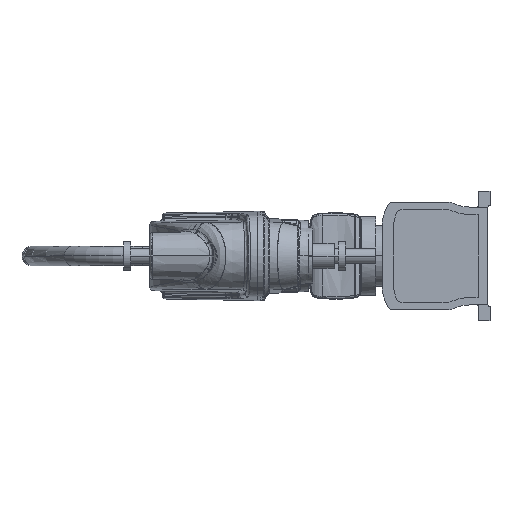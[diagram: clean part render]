
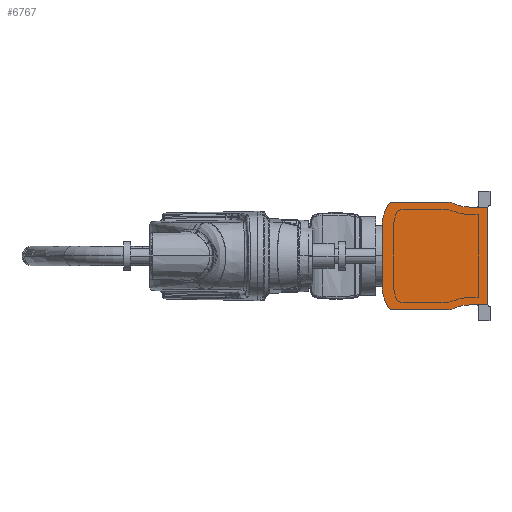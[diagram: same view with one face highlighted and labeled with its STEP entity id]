
A CAD part, left-side view. The second image highlights one B-rep face of the part: STEP entity #6767.
In plain terms, the highlighted planar face has unit normal (-1, 0, 0).
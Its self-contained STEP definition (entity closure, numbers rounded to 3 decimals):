
#617=DIRECTION('',(0.,-1.,0.));
#618=VECTOR('',#617,22.929);
#619=CARTESIAN_POINT('',(-72.,28.929,-68.));
#620=LINE('',#619,#618);
#693=CARTESIAN_POINT('',(-72.,6.,-65.));
#694=DIRECTION('',(1.,0.,0.));
#695=DIRECTION('',(0.,-1.,0.));
#696=AXIS2_PLACEMENT_3D('',#693,#694,#695);
#698=CARTESIAN_POINT('',(-72.,28.929,-118.));
#699=DIRECTION('',(-1.,0.,0.));
#700=DIRECTION('',(0.,0.,1.));
#701=AXIS2_PLACEMENT_3D('',#698,#699,#700);
#703=CARTESIAN_POINT('',(-72.,61.655,-45.));
#704=DIRECTION('',(1.,0.,0.));
#705=DIRECTION('',(0.,-0.409,-0.912));
#706=AXIS2_PLACEMENT_3D('',#703,#704,#705);
#708=CARTESIAN_POINT('',(-72.,133.943,-65.));
#709=DIRECTION('',(1.,0.,0.));
#710=DIRECTION('',(0.,0.,-1.));
#711=AXIS2_PLACEMENT_3D('',#708,#709,#710);
#713=CARTESIAN_POINT('',(-72.,70.602,-35.201));
#714=DIRECTION('',(1.,0.,0.));
#715=DIRECTION('',(0.,0.905,-0.426));
#716=AXIS2_PLACEMENT_3D('',#713,#714,#715);
#718=CARTESIAN_POINT('',(-72.,140.,-44.365));
#719=DIRECTION('',(1.,0.,0.));
#720=DIRECTION('',(0.,0.991,-0.131));
#721=AXIS2_PLACEMENT_3D('',#718,#719,#720);
#723=CARTESIAN_POINT('',(-72.,140.,44.365));
#724=DIRECTION('',(1.,0.,0.));
#725=DIRECTION('',(0.,1.,0.));
#726=AXIS2_PLACEMENT_3D('',#723,#724,#725);
#728=CARTESIAN_POINT('',(-72.,70.602,35.201));
#729=DIRECTION('',(1.,0.,0.));
#730=DIRECTION('',(0.,0.991,0.131));
#731=AXIS2_PLACEMENT_3D('',#728,#729,#730);
#733=CARTESIAN_POINT('',(-72.,133.943,65.));
#734=DIRECTION('',(1.,0.,0.));
#735=DIRECTION('',(0.,0.905,0.426));
#736=AXIS2_PLACEMENT_3D('',#733,#734,#735);
#738=CARTESIAN_POINT('',(-72.,61.655,45.));
#739=DIRECTION('',(1.,0.,0.));
#740=DIRECTION('',(0.,0.,1.));
#741=AXIS2_PLACEMENT_3D('',#738,#739,#740);
#743=CARTESIAN_POINT('',(-72.,28.929,118.));
#744=DIRECTION('',(-1.,0.,0.));
#745=DIRECTION('',(0.,0.409,-0.913));
#746=AXIS2_PLACEMENT_3D('',#743,#744,#745);
#748=CARTESIAN_POINT('',(-72.,6.,65.));
#749=DIRECTION('',(1.,0.,0.));
#750=DIRECTION('',(0.,0.,1.));
#751=AXIS2_PLACEMENT_3D('',#748,#749,#750);
#785=DIRECTION('',(0.,-1.,0.));
#786=VECTOR('',#785,72.287);
#787=CARTESIAN_POINT('',(-72.,133.943,-75.));
#788=LINE('',#787,#786);
#831=DIRECTION('',(0.,0.,-1.));
#832=VECTOR('',#831,88.729);
#833=CARTESIAN_POINT('',(-72.,150.,44.365));
#834=LINE('',#833,#832);
#973=DIRECTION('',(0.,1.,0.));
#974=VECTOR('',#973,72.287);
#975=CARTESIAN_POINT('',(-72.,61.655,75.));
#976=LINE('',#975,#974);
#1009=DIRECTION('',(0.,1.,0.));
#1010=VECTOR('',#1009,22.929);
#1011=CARTESIAN_POINT('',(-72.,6.,68.));
#1012=LINE('',#1011,#1010);
#1029=DIRECTION('',(0.,0.,1.));
#1030=VECTOR('',#1029,130.);
#1031=CARTESIAN_POINT('',(-72.,3.,-65.));
#1032=LINE('',#1031,#1030);
#4777=CARTESIAN_POINT('',(-72.,3.,-65.));
#4778=CARTESIAN_POINT('',(-72.,6.,-68.));
#4779=VERTEX_POINT('',#4777);
#4780=VERTEX_POINT('',#4778);
#4781=CARTESIAN_POINT('',(-72.,28.929,-68.));
#4782=VERTEX_POINT('',#4781);
#4783=CARTESIAN_POINT('',(-72.,49.383,-72.375));
#4784=VERTEX_POINT('',#4783);
#4785=CARTESIAN_POINT('',(-72.,61.655,-75.));
#4786=VERTEX_POINT('',#4785);
#4787=CARTESIAN_POINT('',(-72.,133.943,-75.));
#4788=VERTEX_POINT('',#4787);
#4789=CARTESIAN_POINT('',(-72.,142.991,-69.257));
#4790=VERTEX_POINT('',#4789);
#4791=CARTESIAN_POINT('',(-72.,149.914,-45.674));
#4792=VERTEX_POINT('',#4791);
#4793=CARTESIAN_POINT('',(-72.,150.,-44.365));
#4794=VERTEX_POINT('',#4793);
#4795=CARTESIAN_POINT('',(-72.,150.,44.365));
#4796=VERTEX_POINT('',#4795);
#4797=CARTESIAN_POINT('',(-72.,149.914,45.674));
#4798=VERTEX_POINT('',#4797);
#4799=CARTESIAN_POINT('',(-72.,142.991,69.257));
#4800=VERTEX_POINT('',#4799);
#4801=CARTESIAN_POINT('',(-72.,133.943,75.));
#4802=VERTEX_POINT('',#4801);
#4803=CARTESIAN_POINT('',(-72.,61.655,75.));
#4804=VERTEX_POINT('',#4803);
#4805=CARTESIAN_POINT('',(-72.,49.383,72.375));
#4806=VERTEX_POINT('',#4805);
#4807=CARTESIAN_POINT('',(-72.,28.929,68.));
#4808=VERTEX_POINT('',#4807);
#4809=CARTESIAN_POINT('',(-72.,6.,68.));
#4810=VERTEX_POINT('',#4809);
#4811=CARTESIAN_POINT('',(-72.,3.,65.));
#4812=VERTEX_POINT('',#4811);
#6726=CARTESIAN_POINT('',(-72.,76.5,0.));
#6727=DIRECTION('',(1.,0.,0.));
#6728=DIRECTION('',(0.,-1.,0.));
#6729=AXIS2_PLACEMENT_3D('',#6726,#6727,#6728);
#6730=PLANE('',#6729);
#6731=ORIENTED_EDGE('',*,*,#6712,.T.);
#6732=ORIENTED_EDGE('',*,*,#6604,.F.);
#6734=ORIENTED_EDGE('',*,*,#6733,.T.);
#6736=ORIENTED_EDGE('',*,*,#6735,.T.);
#6738=ORIENTED_EDGE('',*,*,#6737,.F.);
#6740=ORIENTED_EDGE('',*,*,#6739,.T.);
#6742=ORIENTED_EDGE('',*,*,#6741,.T.);
#6744=ORIENTED_EDGE('',*,*,#6743,.T.);
#6746=ORIENTED_EDGE('',*,*,#6745,.F.);
#6748=ORIENTED_EDGE('',*,*,#6747,.T.);
#6750=ORIENTED_EDGE('',*,*,#6749,.T.);
#6752=ORIENTED_EDGE('',*,*,#6751,.T.);
#6754=ORIENTED_EDGE('',*,*,#6753,.F.);
#6756=ORIENTED_EDGE('',*,*,#6755,.T.);
#6758=ORIENTED_EDGE('',*,*,#6757,.T.);
#6760=ORIENTED_EDGE('',*,*,#6759,.F.);
#6762=ORIENTED_EDGE('',*,*,#6761,.T.);
#6764=ORIENTED_EDGE('',*,*,#6763,.F.);
#6765=EDGE_LOOP('',(#6731,#6732,#6734,#6736,#6738,#6740,#6742,#6744,#6746,#6748,
#6750,#6752,#6754,#6756,#6758,#6760,#6762,#6764));
#6766=FACE_OUTER_BOUND('',#6765,.F.);
#697=CIRCLE('',#696,3.);
#702=CIRCLE('',#701,50.);
#707=CIRCLE('',#706,30.);
#712=CIRCLE('',#711,10.);
#717=CIRCLE('',#716,80.);
#722=CIRCLE('',#721,10.);
#727=CIRCLE('',#726,10.);
#732=CIRCLE('',#731,80.);
#737=CIRCLE('',#736,10.);
#742=CIRCLE('',#741,30.);
#747=CIRCLE('',#746,50.);
#752=CIRCLE('',#751,3.);
#6604=EDGE_CURVE('',#4782,#4780,#620,.T.);
#6712=EDGE_CURVE('',#4779,#4780,#697,.T.);
#6733=EDGE_CURVE('',#4782,#4784,#702,.T.);
#6735=EDGE_CURVE('',#4784,#4786,#707,.T.);
#6737=EDGE_CURVE('',#4788,#4786,#788,.T.);
#6739=EDGE_CURVE('',#4788,#4790,#712,.T.);
#6741=EDGE_CURVE('',#4790,#4792,#717,.T.);
#6743=EDGE_CURVE('',#4792,#4794,#722,.T.);
#6745=EDGE_CURVE('',#4796,#4794,#834,.T.);
#6747=EDGE_CURVE('',#4796,#4798,#727,.T.);
#6749=EDGE_CURVE('',#4798,#4800,#732,.T.);
#6751=EDGE_CURVE('',#4800,#4802,#737,.T.);
#6753=EDGE_CURVE('',#4804,#4802,#976,.T.);
#6755=EDGE_CURVE('',#4804,#4806,#742,.T.);
#6757=EDGE_CURVE('',#4806,#4808,#747,.T.);
#6759=EDGE_CURVE('',#4810,#4808,#1012,.T.);
#6761=EDGE_CURVE('',#4810,#4812,#752,.T.);
#6763=EDGE_CURVE('',#4779,#4812,#1032,.T.);
#6767=ADVANCED_FACE('',(#6766),#6730,.F.);
